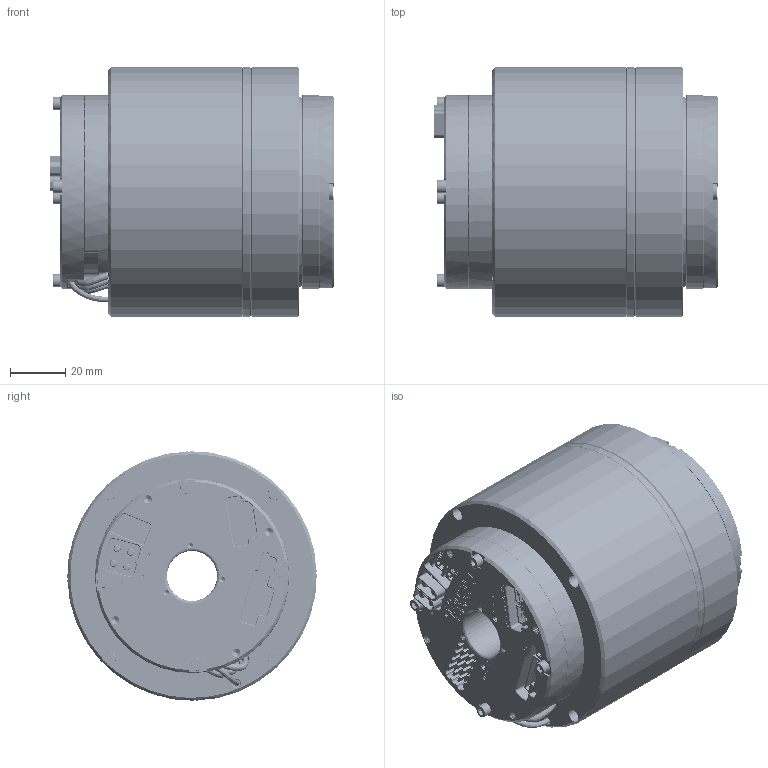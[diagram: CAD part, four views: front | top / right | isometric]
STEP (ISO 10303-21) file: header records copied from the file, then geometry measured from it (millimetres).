
FILE_DESCRIPTION (( 'STEP AP203' ), '1' );
FILE_NAME ('eRob90H｡ﾁ｡ﾁI-XX-18EX_V3_MC2A.BX.XX.step', '2024-04-11T01:23:25', ( 'Windows User' ), ( 'P R C' ), 'SwSTEP 2.0', 'SolidWorks 2021', '' );
FILE_SCHEMA (( 'CONFIG_CONTROL_DESIGN' ));
Length unit declared in the file: millimetre
Products named in the file (1): eRob90H××I-XX-18EX_V3_MC2A.BX.XX
Bounding box: 102.3 x 90 x 90 mm (x, y, z)
Volume: 511354.7 mm3; surface area: 59849.8 mm2
Topology: 1 solids, 1 shells, 4561 faces, 12447 edges, 8140 vertices
Faces by surface type: plane 2339, cylinder 1532, bspline 497, cone 140, torus 53
Entity records: 343711 total; most frequent: CARTESIAN_POINT 236940, ORIENTED_EDGE 24770, DIRECTION 18807, EDGE_CURVE 12385, VERTEX_POINT 8140, LINE 7825, VECTOR 7825, AXIS2_PLACEMENT_3D 5491
